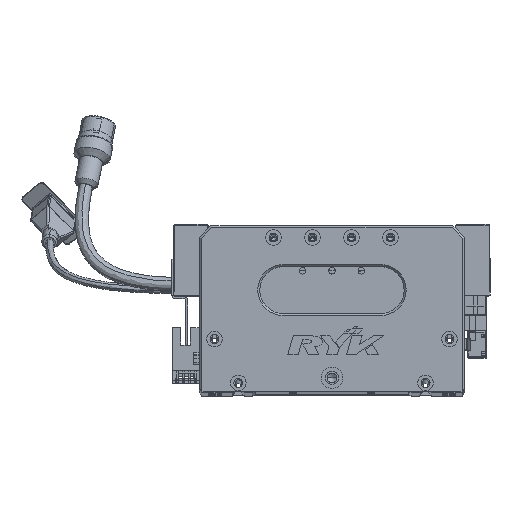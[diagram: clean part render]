
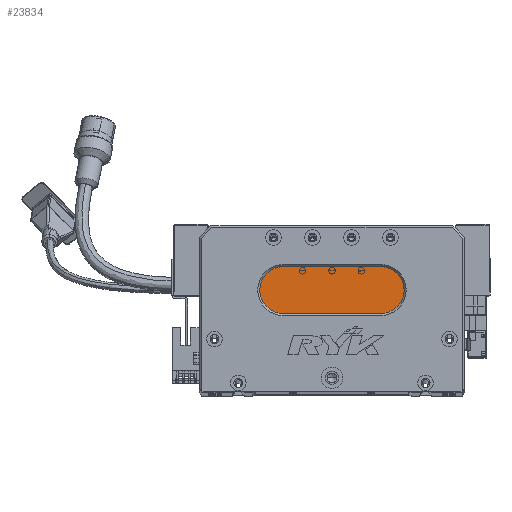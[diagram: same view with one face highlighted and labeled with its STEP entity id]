
A CAD part, top view. The second image highlights one B-rep face of the part: STEP entity #23834.
In plain terms, the highlighted planar face has unit normal (0, 0, 1) as drawn and (0, 0, -1) by its records, which use the part's own axes.
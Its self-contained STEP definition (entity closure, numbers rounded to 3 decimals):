
#612 = AXIS2_PLACEMENT_3D ( 'NONE', #77050, #3529, #30397 ) ;
#1792 = ORIENTED_EDGE ( 'NONE', *, *, #36688, .T. ) ;
#1865 = EDGE_CURVE ( 'NONE', #74666, #41183, #79071, .T. ) ;
#2500 = EDGE_LOOP ( 'NONE', ( #1792, #11675, #39370, #12554, #70031 ) ) ;
#3529 = DIRECTION ( 'NONE',  ( 0., 0., -1. ) ) ;
#5682 = VERTEX_POINT ( 'NONE', #25594 ) ;
#6601 = CARTESIAN_POINT ( 'NONE',  ( 43., 52., 13. ) ) ;
#10944 = DIRECTION ( 'NONE',  ( 1., 0., 0. ) ) ;
#11675 = ORIENTED_EDGE ( 'NONE', *, *, #16994, .T. ) ;
#12186 = FACE_OUTER_BOUND ( 'NONE', #2500, .T. ) ;
#12554 = ORIENTED_EDGE ( 'NONE', *, *, #75306, .T. ) ;
#13120 = DIRECTION ( 'NONE',  ( -1., 0., 0. ) ) ;
#13774 = AXIS2_PLACEMENT_3D ( 'NONE', #6601, #73140, #39380 ) ;
#16994 = EDGE_CURVE ( 'NONE', #30075, #58948, #49412, .T. ) ;
#19291 = CIRCLE ( 'NONE', #13774, 12. ) ;
#20039 = AXIS2_PLACEMENT_3D ( 'NONE', #61385, #21218, #27358 ) ;
#21218 = DIRECTION ( 'NONE',  ( 0., 0., -1. ) ) ;
#23834 = ADVANCED_FACE ( 'NONE', ( #12186 ), #71827, .T. ) ;
#25594 = CARTESIAN_POINT ( 'NONE',  ( 31., 52., 13. ) ) ;
#27358 = DIRECTION ( 'NONE',  ( -1., 0., 0. ) ) ;
#28963 = CARTESIAN_POINT ( 'NONE',  ( 93., 64., 13. ) ) ;
#30075 = VERTEX_POINT ( 'NONE', #77242 ) ;
#30397 = DIRECTION ( 'NONE',  ( -1., 0., 0. ) ) ;
#31614 = CARTESIAN_POINT ( 'NONE',  ( 93., 52., 13. ) ) ;
#32211 = DIRECTION ( 'NONE',  ( -1., 0., 0. ) ) ;
#36688 = EDGE_CURVE ( 'NONE', #41183, #30075, #67061, .T. ) ;
#39370 = ORIENTED_EDGE ( 'NONE', *, *, #57286, .T. ) ;
#39380 = DIRECTION ( 'NONE',  ( -1., 0., 0. ) ) ;
#40305 = VECTOR ( 'NONE', #10944, 1000. ) ;
#41183 = VERTEX_POINT ( 'NONE', #28963 ) ;
#44090 = VECTOR ( 'NONE', #13120, 1000. ) ;
#45571 = CIRCLE ( 'NONE', #20039, 12. ) ;
#46158 = CARTESIAN_POINT ( 'NONE',  ( 93., 40., 13. ) ) ;
#49412 = LINE ( 'NONE', #46158, #44090 ) ;
#51040 = CARTESIAN_POINT ( 'NONE',  ( 93., 64., 13. ) ) ;
#57286 = EDGE_CURVE ( 'NONE', #58948, #5682, #45571, .T. ) ;
#58948 = VERTEX_POINT ( 'NONE', #85872 ) ;
#61385 = CARTESIAN_POINT ( 'NONE',  ( 43., 52., 13. ) ) ;
#67061 = CIRCLE ( 'NONE', #612, 12. ) ;
#70031 = ORIENTED_EDGE ( 'NONE', *, *, #1865, .T. ) ;
#71827 = PLANE ( 'NONE',  #82545 ) ;
#73140 = DIRECTION ( 'NONE',  ( 0., 0., -1. ) ) ;
#74666 = VERTEX_POINT ( 'NONE', #78471 ) ;
#75306 = EDGE_CURVE ( 'NONE', #5682, #74666, #19291, .T. ) ;
#77050 = CARTESIAN_POINT ( 'NONE',  ( 93., 52., 13. ) ) ;
#77242 = CARTESIAN_POINT ( 'NONE',  ( 93., 40., 13. ) ) ;
#78471 = CARTESIAN_POINT ( 'NONE',  ( 43., 64., 13. ) ) ;
#78516 = DIRECTION ( 'NONE',  ( 0., 0., -1. ) ) ;
#79071 = LINE ( 'NONE', #51040, #40305 ) ;
#82545 = AXIS2_PLACEMENT_3D ( 'NONE', #31614, #78516, #32211 ) ;
#85872 = CARTESIAN_POINT ( 'NONE',  ( 43., 40., 13. ) ) ;
